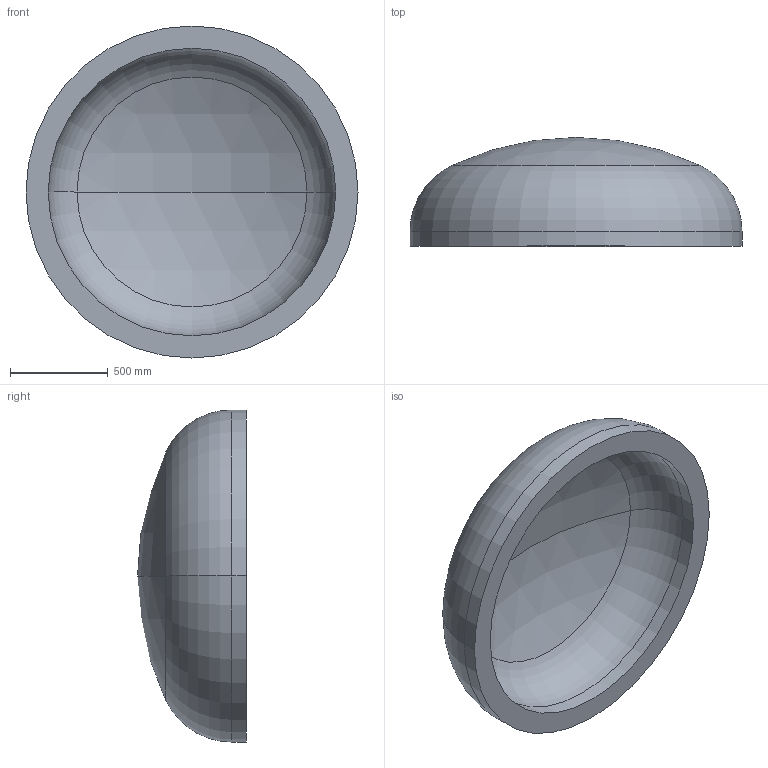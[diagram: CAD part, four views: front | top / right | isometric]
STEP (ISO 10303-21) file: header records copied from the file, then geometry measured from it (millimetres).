
FILE_DESCRIPTION (( 'STEP AP203' ), '1' );
FILE_NAME ('DIN 28013 Korbbogenform_-_Boden DIN 28013 - 1700 x 75 - I - s=114.step', '2016-07-01T12:11:25', ( '' ), ( '' ), 'SwSTEP 2.0', 'SolidWorks 2013', '' );
FILE_SCHEMA (( 'CONFIG_CONTROL_DESIGN' ));
Length unit declared in the file: millimetre
Products named in the file (1): DIN 28013 Korbbogenform_-_Boden DIN 28013 - 1700 x 75 - I - s=114
Bounding box: 1700 x 557.32 x 1700 mm (x, y, z)
Volume: 371301371 mm3; surface area: 7109288.8 mm2
Topology: 1 solids, 1 shells, 13 faces, 24 edges, 14 vertices
Faces by surface type: torus 4, cylinder 4, sphere 4, plane 1
Entity records: 407 total; most frequent: DIRECTION 72, CARTESIAN_POINT 52, ORIENTED_EDGE 48, AXIS2_PLACEMENT_3D 34, EDGE_CURVE 24, CIRCLE 20, EDGE_LOOP 14, VERTEX_POINT 14
